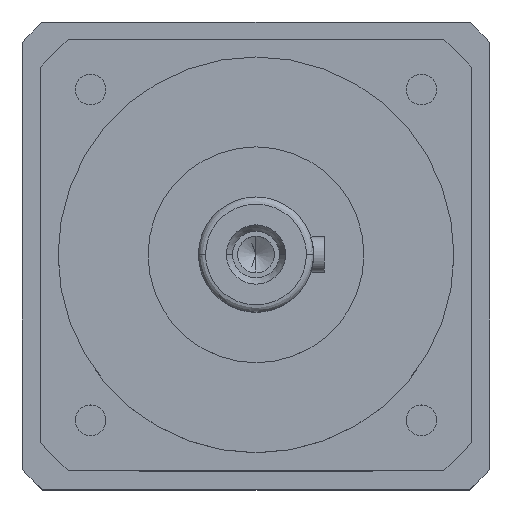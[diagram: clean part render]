
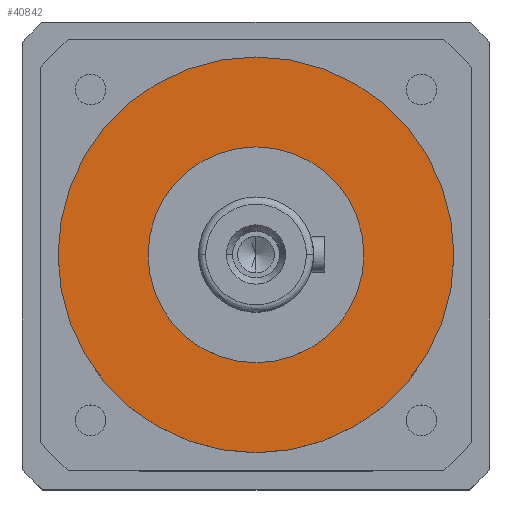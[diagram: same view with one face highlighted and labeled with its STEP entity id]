
A CAD part, top view. The second image highlights one B-rep face of the part: STEP entity #40842.
In plain terms, the highlighted planar face has unit normal (0, 0, 1).
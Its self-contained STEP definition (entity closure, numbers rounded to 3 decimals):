
#149 = DIRECTION ( 'NONE',  ( 1., 0., 0. ) ) ;
#728 = AXIS2_PLACEMENT_3D ( 'NONE', #9447, #33428, #12901 ) ;
#2631 = EDGE_LOOP ( 'NONE', ( #13567, #3505 ) ) ;
#2887 = EDGE_LOOP ( 'NONE', ( #6070, #10189 ) ) ;
#3505 = ORIENTED_EDGE ( 'NONE', *, *, #5744, .F. ) ;
#5474 = AXIS2_PLACEMENT_3D ( 'NONE', #26175, #5656, #29614 ) ;
#5656 = DIRECTION ( 'NONE',  ( 0., 0., 1. ) ) ;
#5744 = EDGE_CURVE ( 'NONE', #37254, #38694, #13316, .T. ) ;
#6070 = ORIENTED_EDGE ( 'NONE', *, *, #26084, .F. ) ;
#6287 = CARTESIAN_POINT ( 'NONE',  ( -55., 0., -52. ) ) ;
#7702 = PLANE ( 'NONE',  #16632 ) ;
#9447 = CARTESIAN_POINT ( 'NONE',  ( 0., 0., -52. ) ) ;
#10189 = ORIENTED_EDGE ( 'NONE', *, *, #31555, .F. ) ;
#10914 = VERTEX_POINT ( 'NONE', #14113 ) ;
#11158 = CARTESIAN_POINT ( 'NONE',  ( 0., 30., -52. ) ) ;
#12901 = DIRECTION ( 'NONE',  ( 1., 0., 0. ) ) ;
#13316 = CIRCLE ( 'NONE', #13621, 55. ) ;
#13567 = ORIENTED_EDGE ( 'NONE', *, *, #17795, .F. ) ;
#13621 = AXIS2_PLACEMENT_3D ( 'NONE', #38650, #18001, #42118 ) ;
#14113 = CARTESIAN_POINT ( 'NONE',  ( -30., 0., -52. ) ) ;
#14563 = DIRECTION ( 'NONE',  ( 0., 0., -1. ) ) ;
#16632 = AXIS2_PLACEMENT_3D ( 'NONE', #11158, #14563, #38635 ) ;
#17552 = FACE_BOUND ( 'NONE', #2887, .T. ) ;
#17795 = EDGE_CURVE ( 'NONE', #38694, #37254, #23593, .T. ) ;
#18001 = DIRECTION ( 'NONE',  ( 0., 0., -1. ) ) ;
#18484 = CIRCLE ( 'NONE', #5474, 30. ) ;
#20154 = VERTEX_POINT ( 'NONE', #25953 ) ;
#20661 = DIRECTION ( 'NONE',  ( 0., 0., -1. ) ) ;
#22614 = CARTESIAN_POINT ( 'NONE',  ( 55., 0., -52. ) ) ;
#23593 = CIRCLE ( 'NONE', #29454, 55. ) ;
#24516 = FACE_OUTER_BOUND ( 'NONE', #2631, .T. ) ;
#25953 = CARTESIAN_POINT ( 'NONE',  ( 30., 0., -52. ) ) ;
#26084 = EDGE_CURVE ( 'NONE', #20154, #10914, #27872, .T. ) ;
#26175 = CARTESIAN_POINT ( 'NONE',  ( 0., 0., -52. ) ) ;
#27872 = CIRCLE ( 'NONE', #728, 30. ) ;
#29454 = AXIS2_PLACEMENT_3D ( 'NONE', #41331, #20661, #149 ) ;
#29614 = DIRECTION ( 'NONE',  ( 1., 0., 0. ) ) ;
#31555 = EDGE_CURVE ( 'NONE', #10914, #20154, #18484, .T. ) ;
#33428 = DIRECTION ( 'NONE',  ( 0., 0., 1. ) ) ;
#37254 = VERTEX_POINT ( 'NONE', #6287 ) ;
#38635 = DIRECTION ( 'NONE',  ( -1., 0., 0. ) ) ;
#38650 = CARTESIAN_POINT ( 'NONE',  ( 0., 0., -52. ) ) ;
#38694 = VERTEX_POINT ( 'NONE', #22614 ) ;
#40842 = ADVANCED_FACE ( 'NONE', ( #24516, #17552 ), #7702, .F. ) ;
#41331 = CARTESIAN_POINT ( 'NONE',  ( 0., 0., -52. ) ) ;
#42118 = DIRECTION ( 'NONE',  ( 1., 0., 0. ) ) ;
